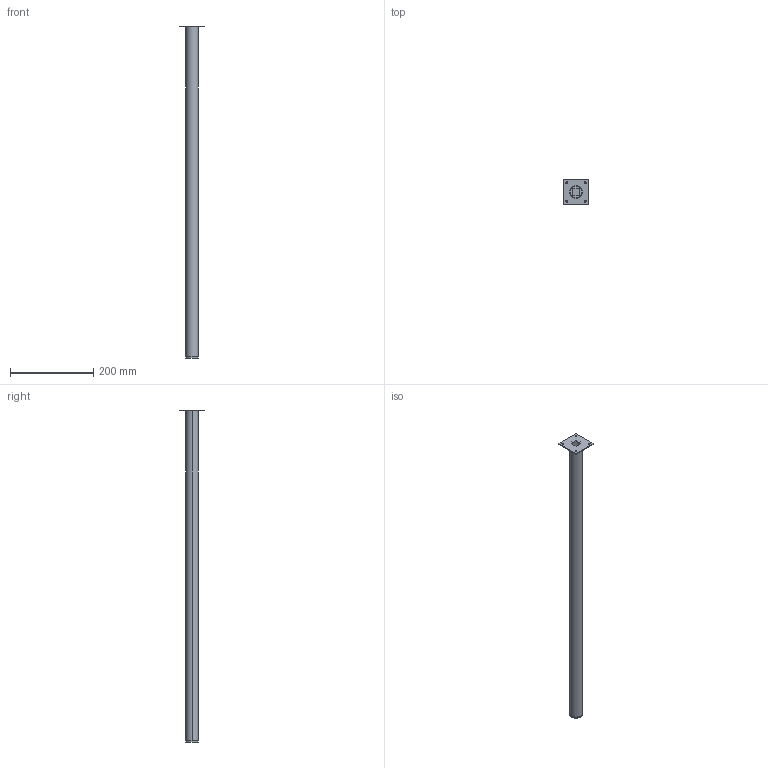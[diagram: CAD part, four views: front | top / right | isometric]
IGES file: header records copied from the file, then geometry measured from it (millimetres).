
Start section: Data from XPlus IGES,  Spatial Corp. Copyright (c) 1999-2004
Global section: file name: 16861.igs; native system:  By Spatial Corp.; preprocessor: XPlus ACIS/IGES 3.0; author: Noname; organization: Noname; date: 20140207.105452; units: millimetre
Bounding box: 60 x 60 x 800 mm (x, y, z)
Surface area: 153834.6 mm2 (no closed solid volume)
Topology: 0 solids, 0 shells, 35 faces, 168 edges, 168 vertices
Faces by surface type: revolution 20, extrusion 15
